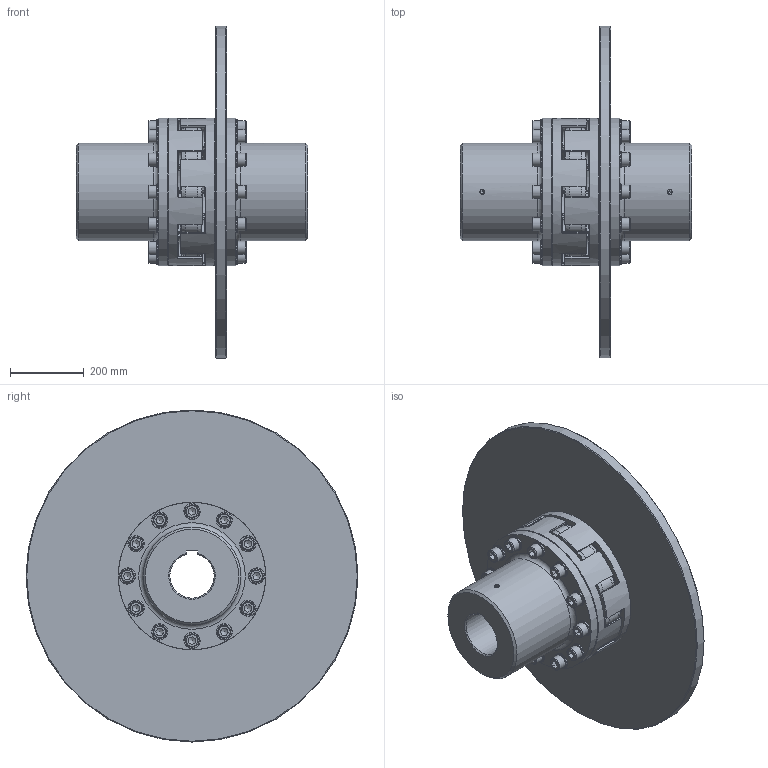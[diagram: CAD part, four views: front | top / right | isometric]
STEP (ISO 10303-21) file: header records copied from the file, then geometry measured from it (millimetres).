
FILE_DESCRIPTION(/* description */ (''),/* implementation_level */ '2;1');
FILE_NAME(/* name */ 'C:\Users\milman01\Desktop\step file\xxxxxx\69377.stp',/* time_stamp */ '2017-03-15T14:48:55+01:00',/* author */ ('milman01'),/* organization */ ('Hillmar Industries Ltd.'),/* preprocessor_version */ 'ST-DEVELOPER v16.1',/* originating_system */ 'Autodesk Inventor 2016',/* authorisation */ '');
FILE_SCHEMA (('AUTOMOTIVE_DESIGN { 1 0 10303 214 3 1 1 }'));
Length unit declared in the file: millimetre
Products named in the file (1): 69377_Shrinkwrap_1
Bounding box: 627.5 x 900 x 900 mm (x, y, z)
Volume: 51834493.9 mm3; surface area: 2967318.4 mm2
Topology: 1 solids, 27 shells, 1286 faces, 2983 edges, 1837 vertices
Faces by surface type: plane 470, cylinder 421, cone 234, torus 161
Full cylindrical faces by diameter (mm): 13.835 x2, 24 x48, 25 x24, 26 x24, 36 x24, 44 x24, 250 x3, 260 x1, 265 x2, 300 x4, 389 x2, 400 x4, 900 x1
Entity records: 35597 total; most frequent: CARTESIAN_POINT 6597, DIRECTION 6208, ORIENTED_EDGE 5066, AXIS2_PLACEMENT_3D 2644, EDGE_CURVE 2533, EDGE_LOOP 1778, VERTEX_POINT 1715, CIRCLE 1357
